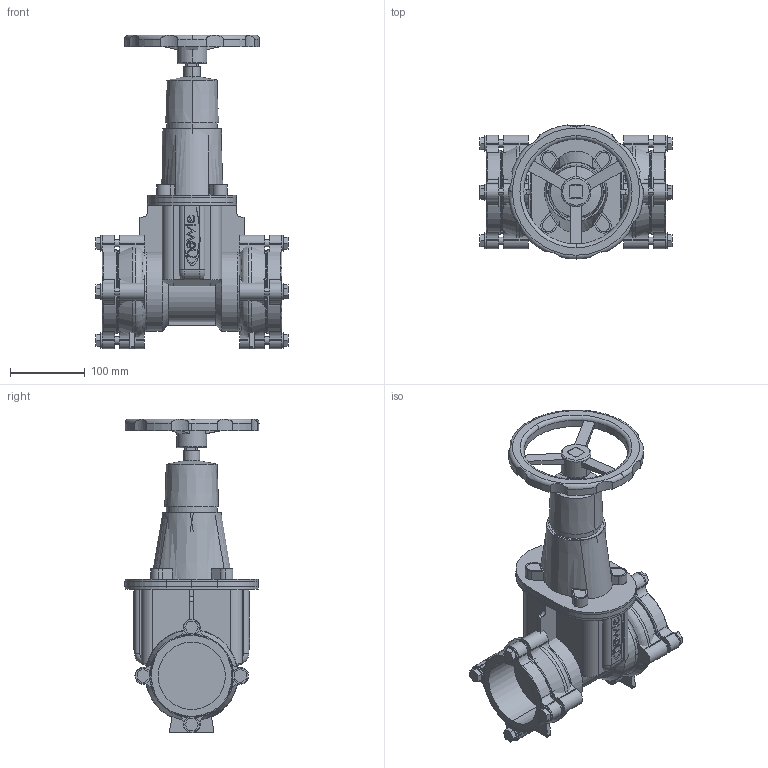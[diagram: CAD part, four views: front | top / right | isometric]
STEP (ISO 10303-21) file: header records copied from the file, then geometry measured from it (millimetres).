
FILE_DESCRIPTION(('STEP AP214'),'1');
FILE_NAME('S:/EK/USER/CAT6/3DHomepage/4040E2/4040E2-PN16-DN80-HANDRAD.STP','2012-04-24T10:54:36',(' '),(' '),'Spatial InterOp 3D',' ',' ');
FILE_SCHEMA(('automotive_design'));
Length unit declared in the file: millimetre
Products named in the file (92): 3D-Objekt
Bounding box: 256.8 x 179.21 x 419 mm (x, y, z)
Volume: 4189336.6 mm3; surface area: 715557.2 mm2
Topology: 92 solids, 92 shells, 843 faces, 1955 edges, 1302 vertices
Faces by surface type: plane 435, cylinder 346, torus 36, cone 14, bspline 12
Entity records: 33563 total; most frequent: CARTESIAN_POINT 4674, DIRECTION 4637, ORIENTED_EDGE 3910, EDGE_CURVE 1955, AXIS2_PLACEMENT_3D 1769, VERTEX_POINT 1302, LINE 1099, VECTOR 1099
